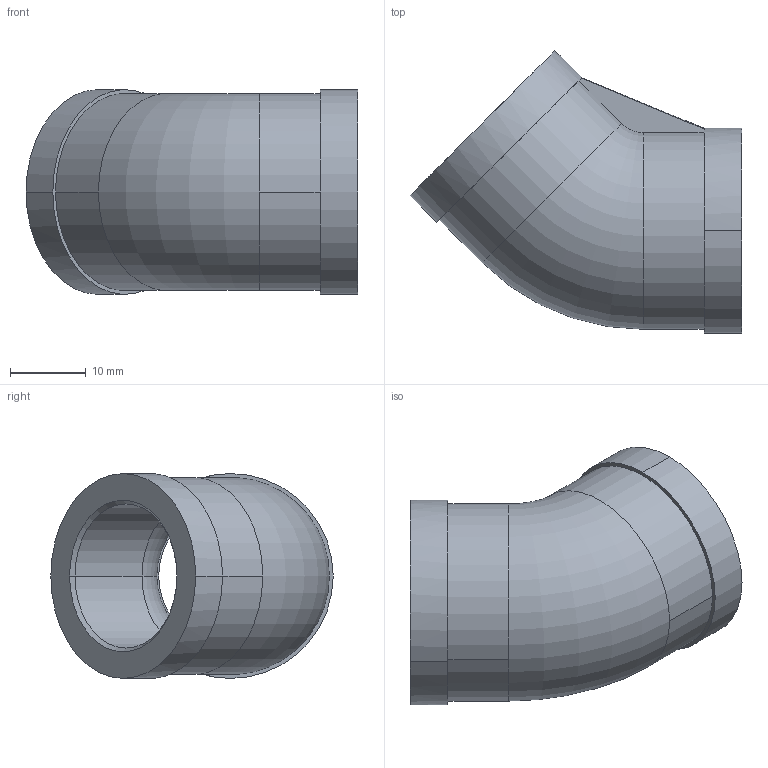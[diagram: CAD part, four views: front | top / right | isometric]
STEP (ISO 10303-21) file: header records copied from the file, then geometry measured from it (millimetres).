
FILE_DESCRIPTION (( 'STEP AP203' ), '1' );
FILE_NAME ('Wiberger-wn8626-a4-1-2tum.step', '2025-03-11T09:14:29', ( '' ), ( '' ), 'SwSTEP 2.0', 'SolidWorks 2023', '' );
FILE_SCHEMA (( 'CONFIG_CONTROL_DESIGN' ));
Length unit declared in the file: millimetre
Products named in the file (1): Wiberger-wn8626-a4-1-2tum
Bounding box: 43.76 x 37.22 x 27 mm (x, y, z)
Volume: 10057.5 mm3; surface area: 6346.9 mm2
Topology: 1 solids, 1 shells, 28 faces, 64 edges, 40 vertices
Faces by surface type: cylinder 12, plane 8, cone 4, torus 3, bspline 1
Entity records: 888 total; most frequent: DIRECTION 160, CARTESIAN_POINT 140, ORIENTED_EDGE 128, AXIS2_PLACEMENT_3D 68, EDGE_CURVE 64, CIRCLE 40, VERTEX_POINT 40, EDGE_LOOP 32
